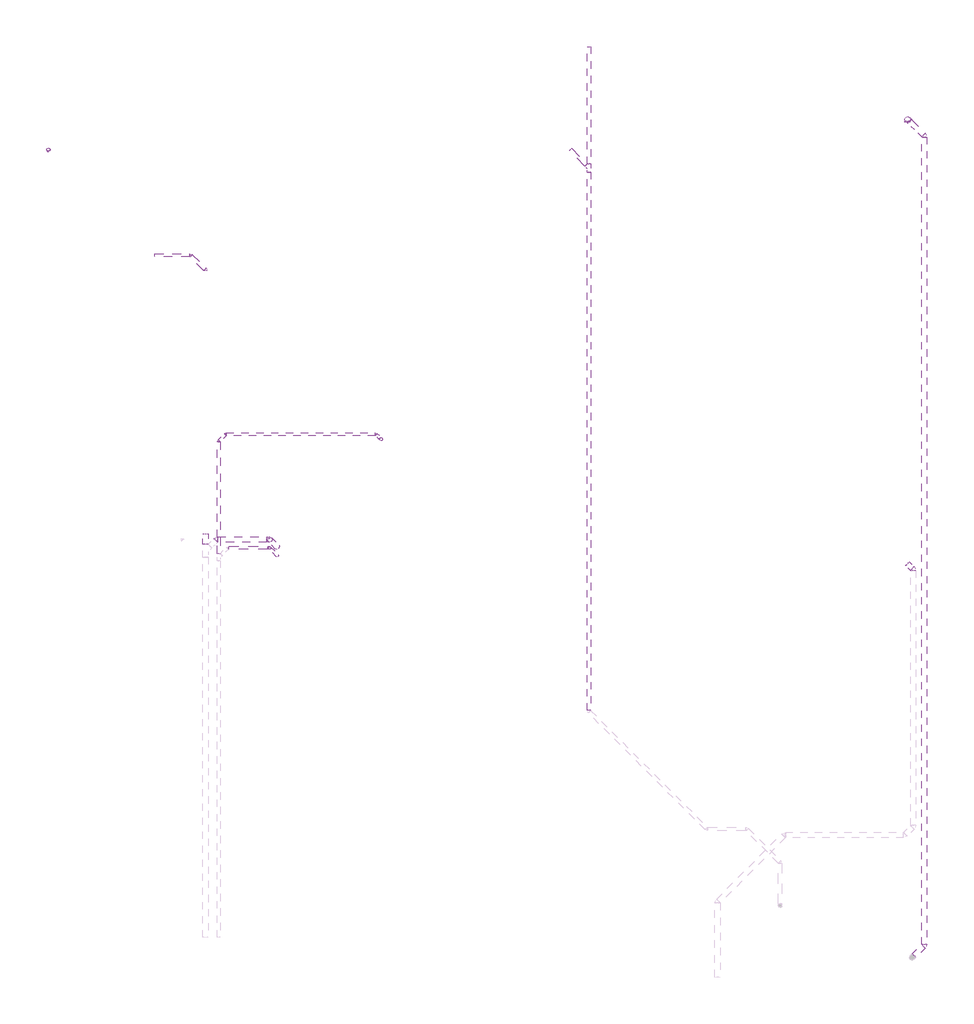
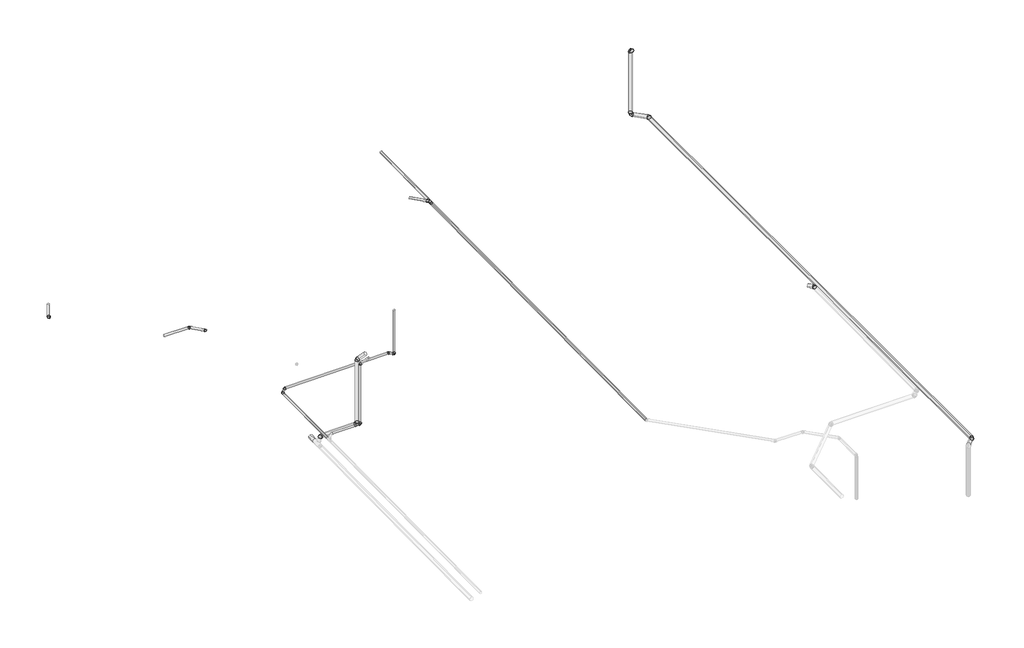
# One storey, part 2 of 2: 23 pipe segments, 18 pipe fittings.
"""IFC4 building model written with IfcOpenShell, lengths in millimetres."""

from ifc_helpers import new_model, si_unit, point, frame, frame_2d, origin, place, context, project, spatial, circle_curve, trimmed, segment, composite_curve, outline, extrude, transform, mapped, element, save
from components import pipe_fitting_8e92d537, pipe_fitting_b994c117, pipe_fitting_ae9a0cda, pipe_fitting_0b7fd5a4, pipe_fitting_aab77541, pipe_fitting_eb148d84, pipe_fitting_b37f0415, pipe_fitting_c8b089c1, pipe_fitting_ab36f62d, pipe_fitting_d8b95698, pipe_fitting_7661399a, pipe_fitting_c22913b9, pipe_fitting_57378e20

model = new_model("IFC4")

# Units and contexts
model_context = context("Model", 3, world=origin())
ifc_project = project(units=[si_unit("LENGTHUNIT", "METRE", prefix="MILLI")], contexts=[model_context])

# Site, building, storey
site = spatial("IfcSite", under=ifc_project)
building = spatial("IfcBuilding", under=site)
storey = spatial("IfcBuildingStorey", under=building, Name="Nivell -03 PS2_PK", Elevation=-1600.0)

# Pipe fittings
placement = place(None, origin())
pipe_fitting_shape = pipe_fitting_8e92d537(model_context)
element("IfcPipeFitting", 1, ObjectType="M_Codo - Genérico : Estándar", at=placement, inside=storey, context=model_context, shape_type="MappedRepresentation", body=[
    mapped(pipe_fitting_shape, transform((-1098.5905847, 3893.6210773, 1235.9020008), x_axis=(0.0, 0.0, -1.0), y_axis=(0.7070891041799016, -0.7071244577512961, 0.0), z_axis=(-0.7071244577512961, -0.7070891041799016, 0.0))),
])
pipe_fitting_2_shape = pipe_fitting_b994c117(model_context)
element("IfcPipeFitting", 2, ObjectType="M_Codo - Genérico : Estándar", at=placement, inside=storey, context=model_context, shape_type="MappedRepresentation", body=[
    mapped(pipe_fitting_2_shape, transform((4331.9124506, -136.3422966, 1164.9037317), x_axis=(-0.7070714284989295, 0.7070714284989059, 0.009999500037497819), y_axis=(-0.7070714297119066, -0.7071300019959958, 0.004141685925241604), z_axis=(0.009999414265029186, -0.004141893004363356, 0.9999414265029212))),
])
element("IfcPipeFitting", 3, ObjectType="M_Codo - Genérico : Estándar", at=placement, inside=storey, context=model_context, shape_type="MappedRepresentation", body=[
    mapped(pipe_fitting_2_shape, transform((4891.2404963, -695.6703423, 1156.9936386), x_axis=(0.0, 0.9999500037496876, 0.009999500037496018), y_axis=(-0.9999914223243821, -4.141685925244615e-05, 0.00414168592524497), z_axis=(0.004141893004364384, -0.009999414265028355, 0.9999414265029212))),
])
pipe_fitting_3_shape = pipe_fitting_ae9a0cda(model_context)
element("IfcPipeFitting", 4, ObjectType="M_Codo - Genérico : Estándar", at=placement, inside=storey, context=model_context, shape_type="MappedRepresentation", body=[
    mapped(pipe_fitting_3_shape, transform((31864.1905227, -12108.0046272, 1181.9531534), x_axis=(0.0, 0.9999500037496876, 0.009999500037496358), y_axis=(-0.999991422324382, -4.141685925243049e-05, 0.004141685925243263), z_axis=(0.004141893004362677, -0.009999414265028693, 0.9999414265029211))),
])
pipe_fitting_4_shape = pipe_fitting_0b7fd5a4(model_context)
element("IfcPipeFitting", 5, ObjectType="M_Codo - Genérico : Estándar", at=placement, inside=storey, context=model_context, shape_type="MappedRepresentation", body=[
    mapped(pipe_fitting_4_shape, transform((5397.7408128, -7220.0533798, 1290.8787896), x_axis=(-0.7070714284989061, -0.7070714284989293, -0.009999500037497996), y_axis=(0.7071300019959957, -0.7070714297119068, -0.0041416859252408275), z_axis=(-0.004141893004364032, -0.009999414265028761, 0.9999414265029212))),
])
pipe_fitting_5_shape = pipe_fitting_aab77541(model_context)
element("IfcPipeFitting", 6, ObjectType="M_Codo - Genérico : Estándar", at=placement, inside=storey, context=model_context, shape_type="MappedRepresentation", body=[
    mapped(pipe_fitting_5_shape, transform((11583.8844099, -7149.3703023, 1352.2508417), x_axis=(0.0, 0.0, -1.0), y_axis=(-0.7070891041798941, 0.7071244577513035, 0.0), z_axis=(0.7071244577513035, 0.7070891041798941, 0.0))),
])
element("IfcPipeFitting", 7, ObjectType="M_Codo - Genérico : Estándar", at=placement, inside=storey, context=model_context, shape_type="MappedRepresentation", body=[
    mapped(pipe_fitting_5_shape, transform((7330.7042549, -11284.1025763, 1267.4826285), x_axis=(0.9999500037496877, 0.0, 0.009999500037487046), y_axis=(-0.009999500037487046, 0.0, 0.9999500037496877), z_axis=(0.0, -1.0, 0.0))),
])
pipe_fitting_6_shape = pipe_fitting_eb148d84(model_context)
element("IfcPipeFitting", 8, ObjectType="M_Codo - Genérico : Estándar", at=placement, inside=storey, context=model_context, shape_type="MappedRepresentation", body=[
    mapped(pipe_fitting_6_shape, transform((7336.6499618, -10969.1025763, 1076.2200651), x_axis=(0.0, 0.0, -1.0), y_axis=(-1.0, 0.0, 0.0), z_axis=(0.0, 1.0, 0.0))),
])
pipe_fitting_7_shape = pipe_fitting_b37f0415(model_context)
element("IfcPipeFitting", 9, ObjectType="M_Codo - Genérico : Estándar", at=placement, inside=storey, context=model_context, shape_type="MappedRepresentation", body=[
    mapped(pipe_fitting_7_shape, transform((31650.8104795, 5049.659603, 900.0), x_axis=(-0.7071067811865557, 0.7071067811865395, 0.0), y_axis=(0.0, 0.0, 1.0000000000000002), z_axis=(0.7071067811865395, 0.7071067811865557, 0.0))),
])
element("IfcPipeFitting", 10, ObjectType="M_Codo - Genérico : Estándar", at=placement, inside=storey, context=model_context, shape_type="MappedRepresentation", body=[
    mapped(pipe_fitting_7_shape, transform((31650.8104795, 5049.659603, 4650.0), x_axis=(0.0, 0.0, 1.0), y_axis=(0.0, -1.0, 0.0), z_axis=(1.0, 0.0, 0.0))),
])
pipe_fitting_8_shape = pipe_fitting_c8b089c1(model_context)
element("IfcPipeFitting", 11, ObjectType="M_Codo - Genérico : Estándar", at=placement, inside=storey, context=model_context, shape_type="MappedRepresentation", body=[
    mapped(pipe_fitting_8_shape, transform((32287.2065826, -26436.7365001, 900.0), x_axis=(0.7071067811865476, 0.7071067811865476, 0.0), y_axis=(-0.7071067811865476, 0.7071067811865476, 0.0), z_axis=(0.0, 0.0, 1.0))),
])
element("IfcPipeFitting", 12, ObjectType="M_Codo - Genérico : Estándar", at=placement, inside=storey, context=model_context, shape_type="MappedRepresentation", body=[
    mapped(pipe_fitting_8_shape, transform((32287.2065826, 4413.2634999, 900.0), x_axis=(0.0, 1.0, 0.0), y_axis=(-1.0, 0.0, 0.0), z_axis=(0.0, 0.0, 1.0))),
])
element("IfcPipeFitting", 13, ObjectType="M_Codo - Genérico : Estándar", at=placement, inside=storey, context=model_context, shape_type="MappedRepresentation", body=[
    mapped(pipe_fitting_8_shape, transform((7336.6499618, -10969.1025763, 4829.877788), x_axis=(0.0, 0.0, 1.0), y_axis=(0.7071067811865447, -0.7071067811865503, 0.0), z_axis=(0.7071067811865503, 0.7071067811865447, 0.0))),
])
pipe_fitting_9_shape = pipe_fitting_ab36f62d(model_context)
element("IfcPipeFitting", 14, ObjectType="M_Te - Genérica : Estándar", at=placement, inside=storey, context=model_context, shape_type="MappedRepresentation", body=[
    mapped(pipe_fitting_9_shape, transform((19509.4431427, 3187.8559301, 1206.7154383), x_axis=(0.0, 0.9999500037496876, 0.009999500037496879), y_axis=(0.9999914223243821, 4.141685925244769e-05, -0.004141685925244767), z_axis=(-0.004141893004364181, 0.009999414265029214, -0.9999414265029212))),
])
pipe_fitting_10_shape = pipe_fitting_d8b95698(model_context)
element("IfcPipeFitting", 15, ObjectType="M_Codo - Genérico : Estándar", at=placement, inside=storey, context=model_context, shape_type="MappedRepresentation", body=[
    mapped(pipe_fitting_10_shape, transform((7330.7042549, -11284.1025763, 4761.1003612), x_axis=(-0.500000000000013, 0.5000000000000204, -0.7071067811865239), y_axis=(0.49999999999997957, -0.499999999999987, -0.7071067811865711), z_axis=(-0.7071067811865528, -0.7071067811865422, 0.0))),
])
pipe_fitting_11_shape = pipe_fitting_7661399a(model_context)
element("IfcPipeFitting", 16, ObjectType="M_Codo - Genérico : Estándar", at=placement, inside=storey, context=model_context, shape_type="MappedRepresentation", body=[
    mapped(pipe_fitting_11_shape, transform((11385.918047, -6951.3940413, 1349.4511045), x_axis=(-0.7070537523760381, 0.7070891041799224, -0.009999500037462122), y_axis=(-0.7070949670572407, -0.707109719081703, -0.0035429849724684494), z_axis=(-0.009575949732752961, 0.004565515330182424, 0.9999437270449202))),
])
pipe_fitting_12_shape = pipe_fitting_c22913b9(model_context)
element("IfcPipeFitting", 17, ObjectType="M_Codo - Genérico : Estándar", at=placement, inside=storey, context=model_context, shape_type="MappedRepresentation", body=[
    mapped(pipe_fitting_12_shape, transform((5666.4001513, -6951.3940413, 1294.6782064), x_axis=(-0.9999541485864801, 0.0, -0.009576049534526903), y_axis=(4.3718401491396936e-05, -0.9999895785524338, -0.004565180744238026), z_axis=(-0.009575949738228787, -0.00456539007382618, 0.9999437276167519))),
])
pipe_fitting_13_shape = pipe_fitting_57378e20(model_context)
element("IfcPipeFitting", 18, ObjectType="M_Codo - Genérico : Estándar", at=placement, inside=storey, context=model_context, shape_type="MappedRepresentation", body=[
    mapped(pipe_fitting_13_shape, transform((5317.1919175, -10969.1025763, 1056.0237228), x_axis=(-0.9999499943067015, 0.0, -0.0100004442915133), y_axis=(4.1410037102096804e-05, -0.9999914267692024, -0.004140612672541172), z_axis=(-0.010000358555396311, -0.00414081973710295, 0.9999414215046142))),
])

# Pipe segments
element("IfcPipeSegment", 19, ObjectType="PVC_Baixant", at=placement, inside=storey, context=model_context, shape_type="SweptSolid", body=[
    extrude(outline(composite_curve([segment(trimmed(circle_curve(frame_2d((0.0, 100.0)), 100.0), [point((99.9950009, 100.9999))], [point((0.9999001, 0.0049991))], False, "CARTESIAN"), True, "CONTINUOUS"), segment(trimmed(circle_curve(frame_2d((0.0, 100.0)), 100.0), [point((0.9999001, 0.0049991))], [point((-99.9950008, 99.0001))], False, "CARTESIAN"), True, "CONTINUOUS"), segment(trimmed(circle_curve(frame_2d((0.0, 100.0)), 100.0), [point((-99.9950008, 99.0001))], [point((-0.9999, 199.9950009))], False, "CARTESIAN"), True, "CONTINUOUS"), segment(trimmed(circle_curve(frame_2d((0.0, 100.0)), 100.0), [point((-0.9999, 199.9950009))], [point((99.9950009, 100.9999))], False, "CARTESIAN"), True, "CONTINUOUS")], self_intersect=False)), frame((31832.1112148, -12077.3393916, 1282.3968248), z_axis=(-0.7070714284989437, 0.7070714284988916, 0.00999950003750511), x_axis=(0.707142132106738, 0.7070007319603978, 0.009998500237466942)), (0.0, 0.0, 1.0), 257.7856316),
])
element("IfcPipeSegment", 20, ObjectType="PVC_Baixant", at=placement, inside=storey, context=model_context, shape_type="SweptSolid", body=[
    extrude(outline(composite_curve([segment(trimmed(circle_curve(frame_2d((0.0, 100.0)), 100.0), [point((100.0, 100.0))], [point((0.0, 0.0))], False, "CARTESIAN"), True, "CONTINUOUS"), segment(trimmed(circle_curve(frame_2d((0.0, 100.0)), 100.0), [point((0.0, 0.0))], [point((-100.0, 100.0))], False, "CARTESIAN"), True, "CONTINUOUS"), segment(trimmed(circle_curve(frame_2d((0.0, 100.0)), 100.0), [point((-100.0, 100.0))], [point((0.0, 200.0))], False, "CARTESIAN"), True, "CONTINUOUS"), segment(trimmed(circle_curve(frame_2d((0.0, 100.0)), 100.0), [point((0.0, 200.0))], [point((100.0, 100.0))], False, "CARTESIAN"), True, "CONTINUOUS")], self_intersect=False)), frame((31898.9758667, -26824.967216, 1000.0), z_axis=(0.7071067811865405, 0.7071067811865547, 0.0), x_axis=(0.7071067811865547, -0.7071067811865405, 0.0)), (0.0, 0.0, 1.0), 503.6692257),
])
element("IfcPipeSegment", 21, ObjectType="PVC_Baixant", at=placement, inside=storey, context=model_context, shape_type="SweptSolid", body=[
    extrude(outline(composite_curve([segment(trimmed(circle_curve(frame_2d((900.0, 32287.2065826)), 100.0), [point((900.0, 32387.2065826))], [point((1000.0, 32287.2065826))], False, "CARTESIAN"), True, "CONTINUOUS"), segment(trimmed(circle_curve(frame_2d((900.0, 32287.2065826)), 100.0), [point((1000.0, 32287.2065826))], [point((900.0, 32187.2065826))], False, "CARTESIAN"), True, "CONTINUOUS"), segment(trimmed(circle_curve(frame_2d((900.0, 32287.2065826)), 100.0), [point((900.0, 32187.2065826))], [point((800.0, 32287.2065826))], False, "CARTESIAN"), True, "CONTINUOUS"), segment(trimmed(circle_curve(frame_2d((900.0, 32287.2065826)), 100.0), [point((800.0, 32287.2065826))], [point((900.0, 32387.2065826))], False, "CARTESIAN"), True, "CONTINUOUS")], self_intersect=False)), frame((0.0, -26391.364582, 0.0), z_axis=(0.0, 1.0, 0.0), x_axis=(0.0, 0.0, 1.0)), (0.0, 0.0, 1.0), 30759.2561638),
])
element("IfcPipeSegment", 22, ObjectType="PVC_Baixant", at=placement, inside=storey, context=model_context, shape_type="SweptSolid", body=[
    extrude(outline(composite_curve([segment(trimmed(circle_curve(frame_2d((0.0, 100.0)), 100.0), [point((100.0, 100.0))], [point((0.0, 0.0))], False, "CARTESIAN"), True, "CONTINUOUS"), segment(trimmed(circle_curve(frame_2d((0.0, 100.0)), 100.0), [point((0.0, 0.0))], [point((-100.0, 100.0))], False, "CARTESIAN"), True, "CONTINUOUS"), segment(trimmed(circle_curve(frame_2d((0.0, 100.0)), 100.0), [point((-100.0, 100.0))], [point((0.0, 200.0))], False, "CARTESIAN"), True, "CONTINUOUS"), segment(trimmed(circle_curve(frame_2d((0.0, 100.0)), 100.0), [point((0.0, 200.0))], [point((100.0, 100.0))], False, "CARTESIAN"), True, "CONTINUOUS")], self_intersect=False)), frame((32255.1237916, 4445.3462909, 1000.0), z_axis=(-0.7071067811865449, 0.7071067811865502, 0.0), x_axis=(0.7071067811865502, 0.7071067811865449, 0.0)), (0.0, 0.0, 1.0), 745.0905819),
])
element("IfcPipeSegment", 23, ObjectType="PVC_Baixant", at=placement, inside=storey, context=model_context, shape_type="SweptSolid", body=[
    extrude(outline(composite_curve([segment(trimmed(circle_curve(frame_2d((31650.8104795, 5049.659603)), 100.0), [point((31550.8104795, 5049.659603))], [point((31650.8104795, 5149.659603))], False, "CARTESIAN"), True, "CONTINUOUS"), segment(trimmed(circle_curve(frame_2d((31650.8104795, 5049.659603)), 100.0), [point((31650.8104795, 5149.659603))], [point((31750.8104795, 5049.659603))], False, "CARTESIAN"), True, "CONTINUOUS"), segment(trimmed(circle_curve(frame_2d((31650.8104795, 5049.659603)), 100.0), [point((31750.8104795, 5049.659603))], [point((31650.8104795, 4949.659603))], False, "CARTESIAN"), True, "CONTINUOUS"), segment(trimmed(circle_curve(frame_2d((31650.8104795, 5049.659603)), 100.0), [point((31650.8104795, 4949.659603))], [point((31550.8104795, 5049.659603))], False, "CARTESIAN"), True, "CONTINUOUS")], self_intersect=False)), frame((0.0, 0.0, 1009.5375), z_axis=(0.0, 0.0, 1.0), x_axis=(1.0, 0.0, 0.0)), (0.0, 0.0, 1.0), 3530.925),
])
element("IfcPipeSegment", 24, ObjectType="PVC_Baixant", at=placement, inside=storey, context=model_context, shape_type="SweptSolid", body=[
    extrude(outline(composite_curve([segment(trimmed(circle_curve(frame_2d((0.0, -62.5)), 62.5), [point((-62.4968756, -63.1249375))], [point((-0.6249375, -0.0031245))], False, "CARTESIAN"), True, "CONTINUOUS"), segment(trimmed(circle_curve(frame_2d((0.0, -62.5)), 62.5), [point((-0.6249375, -0.0031245))], [point((62.4968756, -61.8750625))], False, "CARTESIAN"), True, "CONTINUOUS"), segment(trimmed(circle_curve(frame_2d((0.0, -62.5)), 62.5), [point((62.4968756, -61.8750625))], [point((0.6249375, -124.9968756))], False, "CARTESIAN"), True, "CONTINUOUS"), segment(trimmed(circle_curve(frame_2d((0.0, -62.5)), 62.5), [point((0.6249375, -124.9968756))], [point((-62.4968756, -63.1249375))], False, "CARTESIAN"), True, "CONTINUOUS")], self_intersect=False)), frame((19398.330877, 3299.8519909, 1145.7930521), z_axis=(-0.7070714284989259, 0.7070714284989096, 0.009999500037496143), x_axis=(0.7071421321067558, 0.70700073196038, 0.009998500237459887)), (0.0, 0.0, 1.0), 842.911863),
])
element("IfcPipeSegment", 25, ObjectType="PVC_Baixant", at=placement, inside=storey, context=model_context, shape_type="SweptSolid", body=[
    extrude(outline(composite_curve([segment(trimmed(circle_curve(frame_2d((0.0, -62.5000001)), 62.5), [point((-62.5, -62.5000001))], [point((0.0, 0.0))], False, "CARTESIAN"), True, "CONTINUOUS"), segment(trimmed(circle_curve(frame_2d((0.0, -62.5000001)), 62.5), [point((0.0, 0.0))], [point((62.5, -62.5000001))], False, "CARTESIAN"), True, "CONTINUOUS"), segment(trimmed(circle_curve(frame_2d((0.0, -62.5000001)), 62.5), [point((62.5, -62.5000001))], [point((0.0, -125.0))], False, "CARTESIAN"), True, "CONTINUOUS"), segment(trimmed(circle_curve(frame_2d((0.0, -62.5000001)), 62.5), [point((0.0, -125.0))], [point((-62.5, -62.5000001))], False, "CARTESIAN"), True, "CONTINUOUS")], self_intersect=False)), frame((19509.4431427, -17483.5528137, 937.4982259), z_axis=(0.0, 0.9999500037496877, 0.009999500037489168), x_axis=(1.0, 0.0, 0.0)), (0.0, 0.0, 1.0), 20515.9229587),
])
element("IfcPipeSegment", 26, ObjectType="PVC_Baixant", at=placement, inside=storey, context=model_context, shape_type="SweptSolid", body=[
    extrude(outline(composite_curve([segment(trimmed(circle_curve(frame_2d((0.0, -62.5)), 62.5), [point((-62.5, -62.5))], [point((0.0, 0.0))], False, "CARTESIAN"), True, "CONTINUOUS"), segment(trimmed(circle_curve(frame_2d((0.0, -62.5)), 62.5), [point((0.0, 0.0))], [point((62.5, -62.5))], False, "CARTESIAN"), True, "CONTINUOUS"), segment(trimmed(circle_curve(frame_2d((0.0, -62.5)), 62.5), [point((62.5, -62.5))], [point((0.0, -125.0))], False, "CARTESIAN"), True, "CONTINUOUS"), segment(trimmed(circle_curve(frame_2d((0.0, -62.5)), 62.5), [point((0.0, -125.0))], [point((-62.5, -62.5))], False, "CARTESIAN"), True, "CONTINUOUS")], self_intersect=False)), frame((19509.4431427, 3345.617372, 1145.7899278), z_axis=(0.0, 0.9999500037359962, 0.009999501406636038), x_axis=(1.0, 0.0, 0.0)), (0.0, 0.0, 1.0), 4472.8512582),
])
element("IfcPipeSegment", 27, ObjectType="PVC_Baixant", at=placement, inside=storey, context=model_context, shape_type="SweptSolid", body=[
    extrude(outline(composite_curve([segment(trimmed(circle_curve(frame_2d((-1098.5905847, 3893.6210773)), 62.5), [point((-1161.0905847, 3893.6210773))], [point((-1098.5905847, 3956.1210773))], False, "CARTESIAN"), True, "CONTINUOUS"), segment(trimmed(circle_curve(frame_2d((-1098.5905847, 3893.6210773)), 62.5), [point((-1098.5905847, 3956.1210773))], [point((-1036.0905847, 3893.6210773))], False, "CARTESIAN"), True, "CONTINUOUS"), segment(trimmed(circle_curve(frame_2d((-1098.5905847, 3893.6210773)), 62.5), [point((-1036.0905847, 3893.6210773))], [point((-1098.5905847, 3831.1210773))], False, "CARTESIAN"), True, "CONTINUOUS"), segment(trimmed(circle_curve(frame_2d((-1098.5905847, 3893.6210773)), 62.5), [point((-1098.5905847, 3831.1210773))], [point((-1161.0905847, 3893.6210773))], False, "CARTESIAN"), True, "CONTINUOUS")], self_intersect=False)), frame((0.0, 0.0, 1306.6286976), z_axis=(0.0, 0.0, 1.0), x_axis=(1.0, 0.0, 0.0)), (0.0, 0.0, 1.0), 676.3196963),
])
element("IfcPipeSegment", 28, ObjectType="PVC_Baixant", at=placement, inside=storey, context=model_context, shape_type="SweptSolid", body=[
    extrude(outline(composite_curve([segment(trimmed(circle_curve(frame_2d((0.0, -62.5)), 62.5), [point((0.0, -125.0))], [point((-62.5, -62.5))], False, "CARTESIAN"), True, "CONTINUOUS"), segment(trimmed(circle_curve(frame_2d((0.0, -62.5)), 62.5), [point((-62.5, -62.5))], [point((0.0, 0.0))], False, "CARTESIAN"), True, "CONTINUOUS"), segment(trimmed(circle_curve(frame_2d((0.0, -62.5)), 62.5), [point((0.0, 0.0))], [point((62.5000001, -62.5))], False, "CARTESIAN"), True, "CONTINUOUS"), segment(trimmed(circle_curve(frame_2d((0.0, -62.5)), 62.5), [point((62.5000001, -62.5))], [point((0.0, -125.0))], False, "CARTESIAN"), True, "CONTINUOUS")], self_intersect=False)), frame((4302.3252818, -73.8422966, 1165.1996033), z_axis=(-0.9999500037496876, 0.0, 0.009999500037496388), x_axis=(0.009999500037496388, 0.0, 0.9999500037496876)), (0.0, 0.0, 1.0), 1341.6328375),
])
element("IfcPipeSegment", 29, ObjectType="PVC_Baixant", at=placement, inside=storey, context=model_context, shape_type="SweptSolid", body=[
    extrude(outline(composite_curve([segment(trimmed(circle_curve(frame_2d((0.0, 62.5)), 62.5), [point((62.4968756, 63.1249375))], [point((0.6249375, 0.0031244))], False, "CARTESIAN"), True, "CONTINUOUS"), segment(trimmed(circle_curve(frame_2d((0.0, 62.5)), 62.5), [point((0.6249375, 0.0031244))], [point((-62.4968756, 61.8750625))], False, "CARTESIAN"), True, "CONTINUOUS"), segment(trimmed(circle_curve(frame_2d((0.0, 62.5)), 62.5), [point((-62.4968756, 61.8750625))], [point((-0.6249375, 124.9968756))], False, "CARTESIAN"), True, "CONTINUOUS"), segment(trimmed(circle_curve(frame_2d((0.0, 62.5)), 62.5), [point((-0.6249375, 124.9968756))], [point((62.4968756, 63.1249375))], False, "CARTESIAN"), True, "CONTINUOUS")], self_intersect=False)), frame((4870.3192085, -675.6328496, 1219.7832612), z_axis=(-0.7070714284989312, 0.7070714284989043, 0.009999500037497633), x_axis=(0.7071421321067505, 0.7070007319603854, 0.00999850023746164)), (0.0, 0.0, 1.0), 731.8715612),
])
element("IfcPipeSegment", 30, ObjectType="PVC_Baixant", at=placement, inside=storey, context=model_context, shape_type="SweptSolid", body=[
    extrude(outline(composite_curve([segment(trimmed(circle_curve(frame_2d((0.0, -55.0)), 55.0), [point((54.9972508, -54.4500825))], [point((0.5499175, -109.9972508))], False, "CARTESIAN"), True, "CONTINUOUS"), segment(trimmed(circle_curve(frame_2d((0.0, -55.0)), 55.0), [point((0.5499175, -109.9972508))], [point((-54.9972508, -55.5499175))], False, "CARTESIAN"), True, "CONTINUOUS"), segment(trimmed(circle_curve(frame_2d((0.0, -55.0)), 55.0), [point((-54.9972508, -55.5499175))], [point((-0.5499175, -0.0027493))], False, "CARTESIAN"), True, "CONTINUOUS"), segment(trimmed(circle_curve(frame_2d((0.0, -55.0)), 55.0), [point((-0.5499175, -0.0027493))], [point((54.9972508, -54.4500825))], False, "CARTESIAN"), True, "CONTINUOUS")], self_intersect=False)), frame((11404.3502515, -6969.0494471, 1404.7062829), z_axis=(0.7070537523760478, -0.7070891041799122, 0.009999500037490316), x_axis=(0.7071598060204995, 0.7069830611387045, -0.009998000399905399)), (0.0, 0.0, 1.0), 191.6074123),
])
element("IfcPipeSegment", 31, ObjectType="PVC_Baixant", at=placement, inside=storey, context=model_context, shape_type="SweptSolid", body=[
    extrude(outline(composite_curve([segment(trimmed(circle_curve(frame_2d((0.0, -55.0)), 55.0), [point((-55.0, -55.0))], [point((0.0, 0.0))], False, "CARTESIAN"), True, "CONTINUOUS"), segment(trimmed(circle_curve(frame_2d((0.0, -55.0)), 55.0), [point((0.0, 0.0))], [point((55.0, -55.0))], False, "CARTESIAN"), True, "CONTINUOUS"), segment(trimmed(circle_curve(frame_2d((0.0, -55.0)), 55.0), [point((55.0, -55.0))], [point((0.0, -110.0))], False, "CARTESIAN"), True, "CONTINUOUS"), segment(trimmed(circle_curve(frame_2d((0.0, -55.0)), 55.0), [point((0.0, -110.0))], [point((-55.0, -55.0))], False, "CARTESIAN"), True, "CONTINUOUS")], self_intersect=False)), frame((11583.8844099, -7204.3703023, 1414.5623482), z_axis=(4.267930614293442e-06, 4.267717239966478e-06, 0.9999999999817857), x_axis=(-0.9999999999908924, 1.8214763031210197e-11, 4.267930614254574e-06)), (0.0, 0.0, 1.0), 2485.4378866),
])
element("IfcPipeSegment", 32, ObjectType="PVC_Baixant", at=placement, inside=storey, context=model_context, shape_type="SweptSolid", body=[
    extrude(outline(composite_curve([segment(trimmed(circle_curve(frame_2d((0.0, -55.0)), 55.0), [point((0.0, 0.0))], [point((55.0, -55.0))], False, "CARTESIAN"), True, "CONTINUOUS"), segment(trimmed(circle_curve(frame_2d((0.0, -55.0)), 55.0), [point((55.0, -55.0))], [point((0.0, -110.0))], False, "CARTESIAN"), True, "CONTINUOUS"), segment(trimmed(circle_curve(frame_2d((0.0, -55.0)), 55.0), [point((0.0, -110.0))], [point((-55.0, -55.0))], False, "CARTESIAN"), True, "CONTINUOUS"), segment(trimmed(circle_curve(frame_2d((0.0, -55.0)), 55.0), [point((-55.0, -55.0))], [point((0.0, 0.0))], False, "CARTESIAN"), True, "CONTINUOUS")], self_intersect=False)), frame((5692.4670631, -6896.3940413, 1294.9278359), z_axis=(0.9999541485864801, 0.0, 0.009576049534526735), x_axis=(0.009576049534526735, 0.0, -0.9999541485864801)), (0.0, 0.0, 1.0), 5667.6430199),
])
element("IfcPipeSegment", 33, ObjectType="PVC_Baixant", at=placement, inside=storey, context=model_context, shape_type="SweptSolid", body=[
    extrude(outline(composite_curve([segment(trimmed(circle_curve(frame_2d((0.0, -55.0)), 55.0), [point((-54.9972505, -54.450055))], [point((0.549945, -0.0027495))], False, "CARTESIAN"), True, "CONTINUOUS"), segment(trimmed(circle_curve(frame_2d((0.0, -55.0)), 55.0), [point((0.549945, -0.0027495))], [point((54.9972505, -55.549945))], False, "CARTESIAN"), True, "CONTINUOUS"), segment(trimmed(circle_curve(frame_2d((0.0, -55.0)), 55.0), [point((54.9972505, -55.549945))], [point((-0.549945, -109.9972505))], False, "CARTESIAN"), True, "CONTINUOUS"), segment(trimmed(circle_curve(frame_2d((0.0, -55.0)), 55.0), [point((-0.549945, -109.9972505))], [point((-54.9972505, -54.450055))], False, "CARTESIAN"), True, "CONTINUOUS")], self_intersect=False)), frame((5416.1727785, -7200.8436744, 1236.1449562), z_axis=(0.707071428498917, 0.7070714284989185, 0.009999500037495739), x_axis=(0.7071421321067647, -0.7070007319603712, -0.009998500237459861)), (0.0, 0.0, 1.0), 327.8245306),
])
element("IfcPipeSegment", 34, ObjectType="PVC_Baixant", at=placement, inside=storey, context=model_context, shape_type="SweptSolid", body=[
    extrude(outline(composite_curve([segment(trimmed(circle_curve(frame_2d((0.0, -55.0)), 55.0), [point((0.0, 0.0))], [point((55.0, -55.0))], False, "CARTESIAN"), True, "CONTINUOUS"), segment(trimmed(circle_curve(frame_2d((0.0, -55.0)), 55.0), [point((55.0, -55.0))], [point((0.0, -110.0))], False, "CARTESIAN"), True, "CONTINUOUS"), segment(trimmed(circle_curve(frame_2d((0.0, -55.0)), 55.0), [point((0.0, -110.0))], [point((-55.0, -55.0))], False, "CARTESIAN"), True, "CONTINUOUS"), segment(trimmed(circle_curve(frame_2d((0.0, -55.0)), 55.0), [point((-55.0, -55.0))], [point((0.0, 0.0))], False, "CARTESIAN"), True, "CONTINUOUS")], self_intersect=False)), frame((5779.7911366, -11229.1025763, 1251.9734973), z_axis=(0.9999500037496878, 0.0, 0.009999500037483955), x_axis=(0.009999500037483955, 0.0, -0.9999500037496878)), (0.0, 0.0, 1.0), 1488.6793902),
])
element("IfcPipeSegment", 35, ObjectType="PVC_Baixant", at=placement, inside=storey, context=model_context, shape_type="SweptSolid", body=[
    extrude(outline(composite_curve([segment(trimmed(circle_curve(frame_2d((0.0, -55.0)), 55.0), [point((-55.0, -55.0))], [point((0.0, 0.0))], False, "CARTESIAN"), True, "CONTINUOUS"), segment(trimmed(circle_curve(frame_2d((0.0, -55.0)), 55.0), [point((0.0, 0.0))], [point((55.0, -55.0))], False, "CARTESIAN"), True, "CONTINUOUS"), segment(trimmed(circle_curve(frame_2d((0.0, -55.0)), 55.0), [point((55.0, -55.0))], [point((0.0, -110.0))], False, "CARTESIAN"), True, "CONTINUOUS"), segment(trimmed(circle_curve(frame_2d((0.0, -55.0)), 55.0), [point((0.0, -110.0))], [point((-55.0, -55.0))], False, "CARTESIAN"), True, "CONTINUOUS")], self_intersect=False)), frame((5397.7408128, -11502.92071, 1193.0473664), z_axis=(0.0, 0.9999500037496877, 0.00999950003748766), x_axis=(1.0, 0.0, 0.0)), (0.0, 0.0, 1.0), 4257.5634291),
])
element("IfcPipeSegment", 36, ObjectType="PVC_Baixant", at=placement, inside=storey, context=model_context, shape_type="SweptSolid", body=[
    extrude(outline(composite_curve([segment(trimmed(circle_curve(frame_2d((0.0, 100.0)), 100.0), [point((100.0, 100.0))], [point((0.0, 0.0))], False, "CARTESIAN"), True, "CONTINUOUS"), segment(trimmed(circle_curve(frame_2d((0.0, 100.0)), 100.0), [point((0.0, 0.0))], [point((-100.0, 100.0))], False, "CARTESIAN"), True, "CONTINUOUS"), segment(trimmed(circle_curve(frame_2d((0.0, 100.0)), 100.0), [point((-100.0, 100.0))], [point((0.0, 200.0))], False, "CARTESIAN"), True, "CONTINUOUS"), segment(trimmed(circle_curve(frame_2d((0.0, 100.0)), 100.0), [point((0.0, 200.0))], [point((100.0, 100.0))], False, "CARTESIAN"), True, "CONTINUOUS")], self_intersect=False)), frame((4891.2404963, -11146.924158, 1152.4861003), z_axis=(0.0, 0.9999500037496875, 0.009999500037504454), x_axis=(1.0, 0.0, 0.0)), (0.0, 0.0, 1.0), 400.6383429),
])
element("IfcPipeSegment", 37, ObjectType="PVC_Baixant", at=placement, inside=storey, context=model_context, shape_type="SweptSolid", body=[
    extrude(outline(composite_curve([segment(trimmed(circle_curve(frame_2d((0.0, -55.0)), 55.0), [point((44.9073119, -23.2457352))], [point((31.7542648, -99.907312))], False, "CARTESIAN"), True, "CONTINUOUS"), segment(trimmed(circle_curve(frame_2d((0.0, -55.0)), 55.0), [point((31.7542648, -99.907312))], [point((-44.907312, -86.7542648))], False, "CARTESIAN"), True, "CONTINUOUS"), segment(trimmed(circle_curve(frame_2d((0.0, -55.0)), 55.0), [point((-44.907312, -86.7542648))], [point((-31.7542648, -10.0926881))], False, "CARTESIAN"), True, "CONTINUOUS"), segment(trimmed(circle_curve(frame_2d((0.0, -55.0)), 55.0), [point((-31.7542648, -10.0926881))], [point((44.9073119, -23.2457352))], False, "CARTESIAN"), True, "CONTINUOUS")], self_intersect=False)), frame((7343.739038, -11252.2300474, 4811.288593), z_axis=(0.5000000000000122, -0.5000000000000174, 0.7071067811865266), x_axis=(0.8660254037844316, 0.28867513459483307, -0.40824829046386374)), (0.0, 0.0, 1.0), 580.1696231),
])
element("IfcPipeSegment", 38, ObjectType="PVC_Baixant", at=placement, inside=storey, context=model_context, shape_type="SweptSolid", body=[
    extrude(outline(composite_curve([segment(trimmed(circle_curve(frame_2d((7330.7042549, -11284.1025763)), 55.0), [point((7275.7042549, -11284.1025763))], [point((7330.7042549, -11229.1025763))], False, "CARTESIAN"), True, "CONTINUOUS"), segment(trimmed(circle_curve(frame_2d((7330.7042549, -11284.1025763)), 55.0), [point((7330.7042549, -11229.1025763))], [point((7385.7042549, -11284.1025763))], False, "CARTESIAN"), True, "CONTINUOUS"), segment(trimmed(circle_curve(frame_2d((7330.7042549, -11284.1025763)), 55.0), [point((7385.7042549, -11284.1025763))], [point((7330.7042549, -11339.1025763))], False, "CARTESIAN"), True, "CONTINUOUS"), segment(trimmed(circle_curve(frame_2d((7330.7042549, -11284.1025763)), 55.0), [point((7330.7042549, -11339.1025763))], [point((7275.7042549, -11284.1025763))], False, "CARTESIAN"), True, "CONTINUOUS")], self_intersect=False)), frame((0.0, 0.0, 1329.7939003), z_axis=(0.0, 0.0, 1.0), x_axis=(1.0, 0.0, 0.0)), (0.0, 0.0, 1.0), 3405.2368948),
])
element("IfcPipeSegment", 39, ObjectType="PVC_Baixant", at=placement, inside=storey, context=model_context, shape_type="SweptSolid", body=[
    extrude(outline(composite_curve([segment(trimmed(circle_curve(frame_2d((0.0, -100.0)), 100.0), [point((81.6496581, -42.264973))], [point((57.7350269, -181.6496581))], False, "CARTESIAN"), True, "CONTINUOUS"), segment(trimmed(circle_curve(frame_2d((0.0, -100.0)), 100.0), [point((57.7350269, -181.6496581))], [point((-81.6496581, -157.7350269))], False, "CARTESIAN"), True, "CONTINUOUS"), segment(trimmed(circle_curve(frame_2d((0.0, -100.0)), 100.0), [point((-81.6496581, -157.7350269))], [point((-57.7350269, -18.3503419))], False, "CARTESIAN"), True, "CONTINUOUS"), segment(trimmed(circle_curve(frame_2d((0.0, -100.0)), 100.0), [point((-57.7350269, -18.3503419))], [point((81.6496581, -42.264973))], False, "CARTESIAN"), True, "CONTINUOUS")], self_intersect=False)), frame((7359.3359209, -10910.1388773, 4919.6956059), z_axis=(0.5000000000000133, -0.5000000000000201, 0.707106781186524), x_axis=(0.866025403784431, 0.28867513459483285, -0.40824829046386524)), (0.0, 0.0, 1.0), 539.2561638),
])
element("IfcPipeSegment", 40, ObjectType="PVC_Baixant", at=placement, inside=storey, context=model_context, shape_type="SweptSolid", body=[
    extrude(outline(composite_curve([segment(trimmed(circle_curve(frame_2d((7336.6499618, -10969.1025763)), 100.0), [point((7236.6499618, -10969.1025763))], [point((7336.6499618, -10869.1025763))], False, "CARTESIAN"), True, "CONTINUOUS"), segment(trimmed(circle_curve(frame_2d((7336.6499618, -10969.1025763)), 100.0), [point((7336.6499618, -10869.1025763))], [point((7436.6499618, -10969.1025763))], False, "CARTESIAN"), True, "CONTINUOUS"), segment(trimmed(circle_curve(frame_2d((7336.6499618, -10969.1025763)), 100.0), [point((7436.6499618, -10969.1025763))], [point((7336.6499618, -11069.1025763))], False, "CARTESIAN"), True, "CONTINUOUS"), segment(trimmed(circle_curve(frame_2d((7336.6499618, -10969.1025763)), 100.0), [point((7336.6499618, -11069.1025763))], [point((7236.6499618, -10969.1025763))], False, "CARTESIAN"), True, "CONTINUOUS")], self_intersect=False)), frame((0.0, 0.0, 1184.6676669), z_axis=(0.0, 0.0, 1.0), x_axis=(1.0, 0.0, 0.0)), (0.0, 0.0, 1.0), 3599.8382031),
])
element("IfcPipeSegment", 41, ObjectType="PVC_Baixant", at=placement, inside=storey, context=model_context, shape_type="SweptSolid", body=[
    extrude(outline(composite_curve([segment(trimmed(circle_curve(frame_2d((0.0, -100.0)), 100.0), [point((0.0, 0.0))], [point((100.0, -100.0))], False, "CARTESIAN"), True, "CONTINUOUS"), segment(trimmed(circle_curve(frame_2d((0.0, -100.0)), 100.0), [point((100.0, -100.0))], [point((0.0, -200.0))], False, "CARTESIAN"), True, "CONTINUOUS"), segment(trimmed(circle_curve(frame_2d((0.0, -100.0)), 100.0), [point((0.0, -200.0))], [point((-100.0, -100.0))], False, "CARTESIAN"), True, "CONTINUOUS"), segment(trimmed(circle_curve(frame_2d((0.0, -100.0)), 100.0), [point((-100.0, -100.0))], [point((0.0, 0.0))], False, "CARTESIAN"), True, "CONTINUOUS")], self_intersect=False)), frame((5362.5574983, -10869.1025763, 1056.4773786), z_axis=(0.9999499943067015, 0.0, 0.01000044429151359), x_axis=(0.01000044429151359, 0.0, -0.9999499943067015)), (0.0, 0.0, 1.0), 1865.7435816),
])

save(model, "model.ifc")
